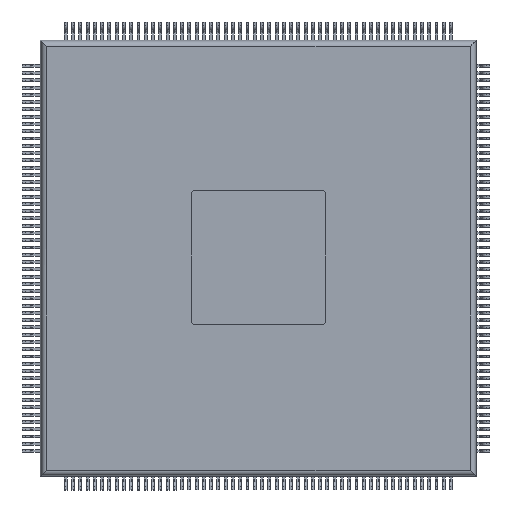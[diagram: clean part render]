
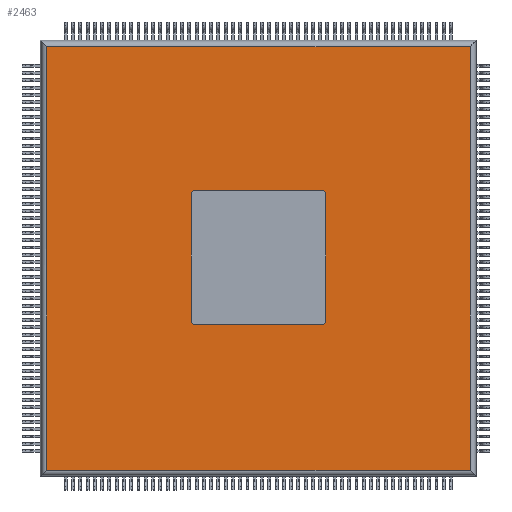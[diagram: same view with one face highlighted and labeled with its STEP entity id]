
A CAD part, front view. The second image highlights one B-rep face of the part: STEP entity #2463.
In plain terms, the highlighted planar face has unit normal (0, -1, 0).
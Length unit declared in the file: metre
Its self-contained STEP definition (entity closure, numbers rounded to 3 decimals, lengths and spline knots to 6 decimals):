
#2463=ADVANCED_FACE('2:42',(#5784,#5785),#5786,.T.);
#5784=FACE_BOUND('',#12154,.T.);
#5785=FACE_OUTER_BOUND('',#12155,.T.);
#5786=PLANE('',#12156);
#12154=EDGE_LOOP('',(#18656,#18657,#18658,#18659,#18660,#18661,#18662,#18663));
#12155=EDGE_LOOP('',(#18664,#18665,#18666,#18667));
#12156=AXIS2_PLACEMENT_3D('',#18668,#18669,#18670);
#18656=ORIENTED_EDGE('',*,*,#43711,.T.);
#18657=ORIENTED_EDGE('',*,*,#43715,.T.);
#18658=ORIENTED_EDGE('',*,*,#43708,.T.);
#18659=ORIENTED_EDGE('',*,*,#43702,.T.);
#18660=ORIENTED_EDGE('',*,*,#43695,.T.);
#18661=ORIENTED_EDGE('',*,*,#43699,.T.);
#18662=ORIENTED_EDGE('',*,*,#43705,.T.);
#18663=ORIENTED_EDGE('',*,*,#43717,.T.);
#18664=ORIENTED_EDGE('',*,*,#43734,.F.);
#18665=ORIENTED_EDGE('',*,*,#43757,.T.);
#18666=ORIENTED_EDGE('',*,*,#43745,.T.);
#18667=ORIENTED_EDGE('',*,*,#43758,.F.);
#18668=CARTESIAN_POINT('',(0.,-0.0007,0.012));
#18669=DIRECTION('',(0.,-1.0,0.0));
#18670=DIRECTION('',(-1.0,0.,-0.0));
#43695=EDGE_CURVE('7:4949',#51810,#51811,#51812,.T.);
#43699=EDGE_CURVE('7:4961',#51811,#51818,#51819,.T.);
#43702=EDGE_CURVE('7:4970',#51823,#51810,#51824,.T.);
#43705=EDGE_CURVE('7:4979',#51818,#51828,#51829,.T.);
#43708=EDGE_CURVE('7:4988',#51833,#51823,#51834,.T.);
#43711=EDGE_CURVE('7:4997',#51838,#51839,#51840,.T.);
#43715=EDGE_CURVE('7:5009',#51839,#51833,#51846,.T.);
#43717=EDGE_CURVE('7:5015',#51828,#51838,#51848,.T.);
#43734=EDGE_CURVE('2:132',#51872,#51874,#51875,.T.);
#43745=EDGE_CURVE('2:165',#51887,#51892,#51894,.T.);
#43757=EDGE_CURVE('2:201',#51872,#51887,#51912,.T.);
#43758=EDGE_CURVE('2:204',#51874,#51892,#51913,.T.);
#51810=VERTEX_POINT('',#64954);
#51811=VERTEX_POINT('',#64955);
#51812=LINE('',#64956,#64957);
#51818=VERTEX_POINT('',#64966);
#51819=CIRCLE('',#64967,0.0002);
#51823=VERTEX_POINT('',#64972);
#51824=CIRCLE('',#64973,0.0002);
#51828=VERTEX_POINT('',#64978);
#51829=LINE('',#64979,#64980);
#51833=VERTEX_POINT('',#64986);
#51834=LINE('',#64987,#64988);
#51838=VERTEX_POINT('',#64994);
#51839=VERTEX_POINT('',#64995);
#51840=LINE('',#64996,#64997);
#51846=CIRCLE('',#65006,0.0002);
#51848=CIRCLE('',#65008,0.0002);
#51872=VERTEX_POINT('',#65040);
#51874=VERTEX_POINT('',#65042);
#51875=LINE('',#65043,#65044);
#51887=VERTEX_POINT('',#65060);
#51892=VERTEX_POINT('',#65066);
#51894=LINE('',#65068,#65069);
#51912=LINE('',#65096,#65097);
#51913=LINE('',#65098,#65099);
#64954=CARTESIAN_POINT('',(0.0037,-0.0007,0.00355));
#64955=CARTESIAN_POINT('',(0.0037,-0.0007,-0.00345));
#64956=CARTESIAN_POINT('',(0.0037,-0.0007,0.006025));
#64957=VECTOR('',#84208,1.0);
#64966=CARTESIAN_POINT('',(0.0035,-0.0007,-0.00365));
#64967=AXIS2_PLACEMENT_3D('',#84212,#84213,#84214);
#64972=CARTESIAN_POINT('',(0.0035,-0.0007,0.00375));
#64973=AXIS2_PLACEMENT_3D('',#84219,#84220,#84221);
#64978=CARTESIAN_POINT('',(-0.0035,-0.0007,-0.00365));
#64979=CARTESIAN_POINT('',(0.,-0.0007,-0.00365));
#64980=VECTOR('',#84226,1.0);
#64986=CARTESIAN_POINT('',(-0.0035,-0.0007,0.00375));
#64987=CARTESIAN_POINT('',(0.,-0.0007,0.00375));
#64988=VECTOR('',#84229,1.0);
#64994=CARTESIAN_POINT('',(-0.0037,-0.0007,-0.00345));
#64995=CARTESIAN_POINT('',(-0.0037,-0.0007,0.00355));
#64996=CARTESIAN_POINT('',(-0.0037,-0.0007,0.006025));
#64997=VECTOR('',#84232,1.0);
#65006=AXIS2_PLACEMENT_3D('',#84236,#84237,#84238);
#65008=AXIS2_PLACEMENT_3D('',#84242,#84243,#84244);
#65040=CARTESIAN_POINT('',(-0.01166,-0.0007,0.01166));
#65042=CARTESIAN_POINT('',(0.01166,-0.0007,0.01166));
#65043=CARTESIAN_POINT('',(0.008935,-0.0007,0.01166));
#65044=VECTOR('',#84277,1.0);
#65060=CARTESIAN_POINT('',(-0.01166,-0.0007,-0.01166));
#65066=CARTESIAN_POINT('',(0.01166,-0.0007,-0.01166));
#65068=CARTESIAN_POINT('',(0.008935,-0.0007,-0.01166));
#65069=VECTOR('',#84298,1.0);
#65096=CARTESIAN_POINT('',(-0.01166,-0.0007,0.012));
#65097=VECTOR('',#84314,1.0);
#65098=CARTESIAN_POINT('',(0.01166,-0.0007,0.012));
#65099=VECTOR('',#84315,1.0);
#84208=DIRECTION('',(0.,0.,-1.0));
#84212=CARTESIAN_POINT('',(0.0035,-0.0007,-0.00345));
#84213=DIRECTION('',(0.,1.0,0.0));
#84214=DIRECTION('',(1.0,0.,0.0));
#84219=CARTESIAN_POINT('',(0.0035,-0.0007,0.00355));
#84220=DIRECTION('',(0.,1.0,0.));
#84221=DIRECTION('',(0.,0.,1.0));
#84226=DIRECTION('',(-1.0,0.,0.));
#84229=DIRECTION('',(1.0,0.,0.));
#84232=DIRECTION('',(0.,0.,1.0));
#84236=CARTESIAN_POINT('',(-0.0035,-0.0007,0.00355));
#84237=DIRECTION('',(0.,1.0,0.0));
#84238=DIRECTION('',(-1.0,0.,0.));
#84242=CARTESIAN_POINT('',(-0.0035,-0.0007,-0.00345));
#84243=DIRECTION('',(0.,1.0,0.));
#84244=DIRECTION('',(0.,0.,-1.0));
#84277=DIRECTION('',(1.0,0.0,0.0));
#84298=DIRECTION('',(1.0,0.0,0.0));
#84314=DIRECTION('',(-0.0,-0.0,-1.0));
#84315=DIRECTION('',(-0.0,-0.0,-1.0));
